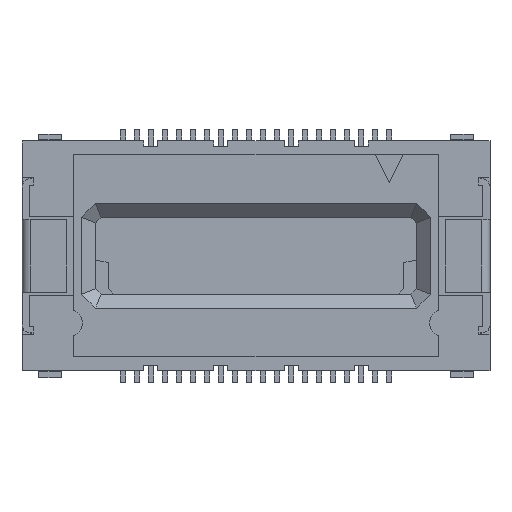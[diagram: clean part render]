
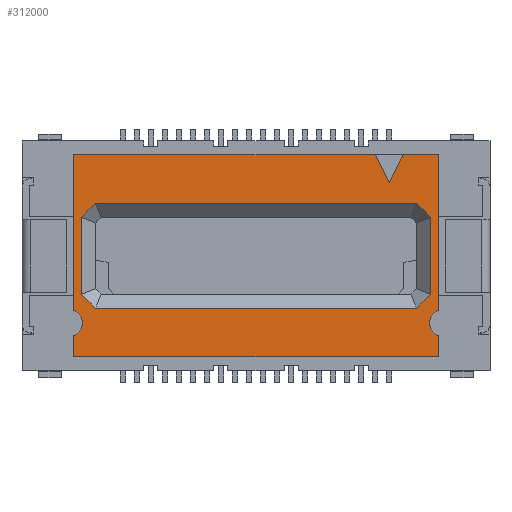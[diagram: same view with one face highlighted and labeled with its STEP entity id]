
A CAD part, top view. The second image highlights one B-rep face of the part: STEP entity #312000.
In plain terms, the highlighted planar face has unit normal (0, 0, 1).
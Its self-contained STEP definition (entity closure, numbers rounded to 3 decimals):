
#2320=CARTESIAN_POINT('',(20.034,-0.955,4.));
#2330=VERTEX_POINT('',#2320);
#2360=CARTESIAN_POINT('',(19.787,-1.202,4.));
#2370=DIRECTION('',(-0.707,-0.707,0.));
#2380=VECTOR('',#2370,1.);
#2390=LINE('',#2360,#2380);
#2400=CARTESIAN_POINT('',(19.541,-1.448,4.));
#2410=VERTEX_POINT('',#2400);
#2420=EDGE_CURVE('',#2330,#2410,#2390,.T.);
#20810=CARTESIAN_POINT('',(19.541,2.292,4.));
#20820=VERTEX_POINT('',#20810);
#20850=CARTESIAN_POINT('',(19.787,2.045,4.));
#20860=DIRECTION('',(0.707,-0.707,0.));
#20870=VECTOR('',#20860,1.);
#20880=LINE('',#20850,#20870);
#20890=CARTESIAN_POINT('',(20.034,1.799,4.));
#20900=VERTEX_POINT('',#20890);
#20910=EDGE_CURVE('',#20820,#20900,#20880,.T.);
#71310=CARTESIAN_POINT('',(8.076,2.292,4.));
#71320=VERTEX_POINT('',#71310);
#71350=CARTESIAN_POINT('',(-6.946,2.292,4.));
#71360=DIRECTION('',(1.,0.,0.));
#71370=VECTOR('',#71360,1.);
#71380=LINE('',#71350,#71370);
#71390=EDGE_CURVE('',#71320,#20820,#71380,.T.);
#85320=CARTESIAN_POINT('',(20.309,-1.52,4.));
#85330=VERTEX_POINT('',#85320);
#85410=CARTESIAN_POINT('',(20.309,-2.436,4.));
#85420=VERTEX_POINT('',#85410);
#85450=CARTESIAN_POINT('',(20.509,-1.978,4.));
#85460=DIRECTION('',(0.,0.,1.));
#85470=DIRECTION('',(1.,0.,0.));
#85480=AXIS2_PLACEMENT_3D('',#85450,#85460,#85470);
#85490=CIRCLE('',#85480,0.5);
#85500=EDGE_CURVE('',#85330,#85420,#85490,.T.);
#85640=CARTESIAN_POINT('',(20.309,-3.178,4.));
#85650=VERTEX_POINT('',#85640);
#85680=CARTESIAN_POINT('',(20.309,0.,4.));
#85690=DIRECTION('',(0.,-1.,0.));
#85700=VECTOR('',#85690,1.);
#85710=LINE('',#85680,#85700);
#85720=EDGE_CURVE('',#85420,#85650,#85710,.T.);
#96460=CARTESIAN_POINT('',(17.048,0.,4.));
#96470=DIRECTION('',(0.447,0.894,0.));
#96480=VECTOR('',#96470,1.);
#96490=LINE('',#96460,#96480);
#96500=CARTESIAN_POINT('',(18.559,3.022,4.));
#96510=VERTEX_POINT('',#96500);
#96520=CARTESIAN_POINT('',(19.059,4.022,4.));
#96530=VERTEX_POINT('',#96520);
#96540=EDGE_CURVE('',#96510,#96530,#96490,.T.);
#148220=CARTESIAN_POINT('',(7.584,1.799,4.));
#148230=VERTEX_POINT('',#148220);
#148260=CARTESIAN_POINT('',(7.83,2.045,4.));
#148270=DIRECTION('',(-0.707,-0.707,0.));
#148280=VECTOR('',#148270,1.);
#148290=LINE('',#148260,#148280);
#148300=EDGE_CURVE('',#71320,#148230,#148290,.T.);
#186690=CARTESIAN_POINT('',(20.07,0.,4.));
#186700=DIRECTION('',(0.447,-0.894,0.));
#186710=VECTOR('',#186700,1.);
#186720=LINE('',#186690,#186710);
#186730=CARTESIAN_POINT('',(18.059,4.022,4.));
#186740=VERTEX_POINT('',#186730);
#186750=EDGE_CURVE('',#186740,#96510,#186720,.T.);
#228700=CARTESIAN_POINT('',(20.309,0.,4.));
#228710=DIRECTION('',(0.,-1.,0.));
#228720=VECTOR('',#228710,1.);
#228730=LINE('',#228700,#228720);
#228740=CARTESIAN_POINT('',(20.309,4.022,4.));
#228750=VERTEX_POINT('',#228740);
#228760=EDGE_CURVE('',#228750,#85330,#228730,.T.);
#292290=CARTESIAN_POINT('',(20.034,0.422,4.));
#292300=DIRECTION('',(0.,1.,0.));
#292310=VECTOR('',#292300,1.);
#292320=LINE('',#292290,#292310);
#292330=EDGE_CURVE('',#2330,#20900,#292320,.T.);
#310410=CARTESIAN_POINT('',(7.584,0.422,4.));
#310420=DIRECTION('',(0.,1.,0.));
#310430=VECTOR('',#310420,1.);
#310440=LINE('',#310410,#310430);
#310450=CARTESIAN_POINT('',(7.584,-0.955,4.));
#310460=VERTEX_POINT('',#310450);
#310470=EDGE_CURVE('',#310460,#148230,#310440,.T.);
#311170=CARTESIAN_POINT('',(8.076,-1.448,4.));
#311180=VERTEX_POINT('',#311170);
#311230=CARTESIAN_POINT('',(-10.581,-1.448,4.));
#311240=DIRECTION('',(-1.,0.,0.));
#311250=VECTOR('',#311240,1.);
#311260=LINE('',#311230,#311250);
#311270=EDGE_CURVE('',#2410,#311180,#311260,.T.);
#311320=CARTESIAN_POINT('',(6.309,-2.313,4.));
#311330=DIRECTION('',(0.,0.,1.));
#311340=DIRECTION('',(1.,0.,0.));
#311350=AXIS2_PLACEMENT_3D('',#311320,#311330,#311340);
#311360=PLANE('',#311350);
#311370=CARTESIAN_POINT('',(7.309,0.,4.));
#311380=DIRECTION('',(0.,1.,0.));
#311390=VECTOR('',#311380,1.);
#311400=LINE('',#311370,#311390);
#311410=CARTESIAN_POINT('',(7.309,-3.178,4.));
#311420=VERTEX_POINT('',#311410);
#311430=CARTESIAN_POINT('',(7.309,-2.436,4.));
#311440=VERTEX_POINT('',#311430);
#311450=EDGE_CURVE('',#311420,#311440,#311400,.T.);
#311460=ORIENTED_EDGE('',*,*,#311450,.F.);
#311470=CARTESIAN_POINT('',(7.109,-1.978,4.));
#311480=DIRECTION('',(0.,0.,-1.));
#311490=DIRECTION('',(-1.,0.,0.));
#311500=AXIS2_PLACEMENT_3D('',#311470,#311480,#311490);
#311510=CIRCLE('',#311500,0.5);
#311520=CARTESIAN_POINT('',(7.309,-1.52,4.));
#311530=VERTEX_POINT('',#311520);
#311540=EDGE_CURVE('',#311530,#311440,#311510,.T.);
#311550=ORIENTED_EDGE('',*,*,#311540,.T.);
#311560=CARTESIAN_POINT('',(7.309,4.022,4.));
#311570=VERTEX_POINT('',#311560);
#311580=EDGE_CURVE('',#311530,#311570,#311400,.T.);
#311590=ORIENTED_EDGE('',*,*,#311580,.F.);
#311600=CARTESIAN_POINT('',(25.,4.022,4.));
#311610=DIRECTION('',(-1.,0.,0.));
#311620=VECTOR('',#311610,1.);
#311630=LINE('',#311600,#311620);
#311640=EDGE_CURVE('',#186740,#311570,#311630,.T.);
#311650=ORIENTED_EDGE('',*,*,#311640,.T.);
#311660=ORIENTED_EDGE('',*,*,#186750,.F.);
#311670=ORIENTED_EDGE('',*,*,#96540,.F.);
#311680=CARTESIAN_POINT('',(5.,4.022,4.));
#311690=DIRECTION('',(-1.,0.,0.));
#311700=VECTOR('',#311690,1.);
#311710=LINE('',#311680,#311700);
#311720=EDGE_CURVE('',#228750,#96530,#311710,.T.);
#311730=ORIENTED_EDGE('',*,*,#311720,.T.);
#311740=ORIENTED_EDGE('',*,*,#228760,.F.);
#311750=ORIENTED_EDGE('',*,*,#85500,.F.);
#311760=ORIENTED_EDGE('',*,*,#85720,.F.);
#311770=CARTESIAN_POINT('',(27.617,-3.178,4.));
#311780=DIRECTION('',(-1.,0.,0.));
#311790=VECTOR('',#311780,1.);
#311800=LINE('',#311770,#311790);
#311810=EDGE_CURVE('',#85650,#311420,#311800,.T.);
#311820=ORIENTED_EDGE('',*,*,#311810,.F.);
#311830=EDGE_LOOP('',(#311820,#311760,#311750,#311740,#311730,#311670,
#311660,#311650,#311590,#311550,#311460));
#311840=FACE_OUTER_BOUND('',#311830,.T.);
#311850=ORIENTED_EDGE('',*,*,#2420,.T.);
#311860=ORIENTED_EDGE('',*,*,#292330,.F.);
#311870=ORIENTED_EDGE('',*,*,#20910,.T.);
#311880=ORIENTED_EDGE('',*,*,#71390,.T.);
#311890=ORIENTED_EDGE('',*,*,#148300,.F.);
#311900=ORIENTED_EDGE('',*,*,#310470,.T.);
#311910=CARTESIAN_POINT('',(7.83,-1.202,4.));
#311920=DIRECTION('',(0.707,-0.707,0.));
#311930=VECTOR('',#311920,1.);
#311940=LINE('',#311910,#311930);
#311950=EDGE_CURVE('',#310460,#311180,#311940,.T.);
#311960=ORIENTED_EDGE('',*,*,#311950,.F.);
#311970=ORIENTED_EDGE('',*,*,#311270,.T.);
#311980=EDGE_LOOP('',(#311970,#311960,#311900,#311890,#311880,#311870,
#311860,#311850));
#311990=FACE_BOUND('',#311980,.T.);
#312000=ADVANCED_FACE('',(#311840,#311990),#311360,.T.);
